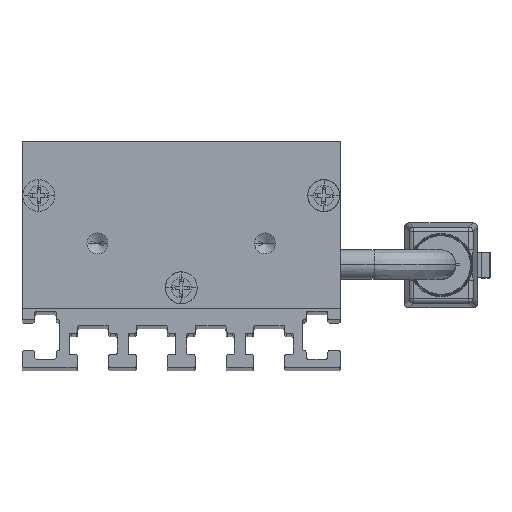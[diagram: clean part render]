
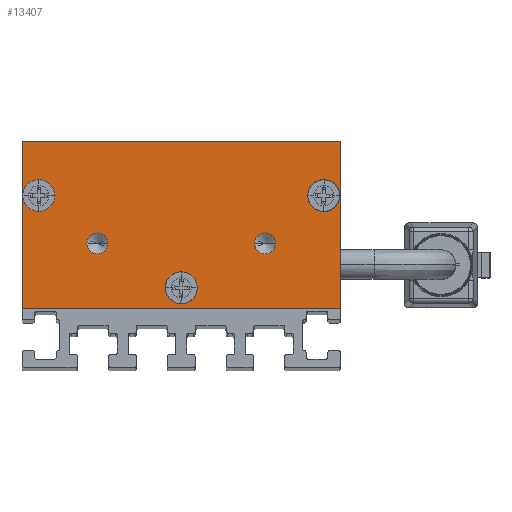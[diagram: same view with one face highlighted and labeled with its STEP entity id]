
A CAD part, top view. The second image highlights one B-rep face of the part: STEP entity #13407.
In plain terms, the highlighted planar face has unit normal (0, 0, 1) as drawn and (0, 0, -1) by its records, which use the part's own axes.
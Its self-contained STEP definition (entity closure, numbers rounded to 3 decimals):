
#22 = CIRCLE ( 'NONE', #2148, 1.9 ) ;
#53 = VERTEX_POINT ( 'NONE', #8058 ) ;
#209 = DIRECTION ( 'NONE',  ( -1., 0., 0. ) ) ;
#290 = CARTESIAN_POINT ( 'NONE',  ( 11.25, 7.8, -2.5 ) ) ;
#395 = LINE ( 'NONE', #14162, #1945 ) ;
#421 = DIRECTION ( 'NONE',  ( -1., 0., 0. ) ) ;
#468 = CARTESIAN_POINT ( 'NONE',  ( -19., 20., -2.5 ) ) ;
#610 = VECTOR ( 'NONE', #632, 1000. ) ;
#623 = VERTEX_POINT ( 'NONE', #5720 ) ;
#632 = DIRECTION ( 'NONE',  ( -1., 0., 0. ) ) ;
#649 = VERTEX_POINT ( 'NONE', #6039 ) ;
#1149 = EDGE_CURVE ( 'NONE', #623, #8627, #3284, .T. ) ;
#1183 = VERTEX_POINT ( 'NONE', #7995 ) ;
#1252 = EDGE_CURVE ( 'NONE', #9167, #14194, #3558, .T. ) ;
#1466 = VERTEX_POINT ( 'NONE', #12126 ) ;
#1819 = DIRECTION ( 'NONE',  ( 0., 1., 0. ) ) ;
#1912 = CIRCLE ( 'NONE', #7988, 1.9 ) ;
#1945 = VECTOR ( 'NONE', #2737, 1000. ) ;
#2122 = CARTESIAN_POINT ( 'NONE',  ( -19., 20., -2.5 ) ) ;
#2148 = AXIS2_PLACEMENT_3D ( 'NONE', #5836, #10875, #4664 ) ;
#2205 = CIRCLE ( 'NONE', #14374, 1.25 ) ;
#2245 = DIRECTION ( 'NONE',  ( 0., 0., -1. ) ) ;
#2492 = EDGE_CURVE ( 'NONE', #649, #15134, #13073, .T. ) ;
#2737 = DIRECTION ( 'NONE',  ( 1., 0., 0. ) ) ;
#2931 = FACE_BOUND ( 'NONE', #9107, .T. ) ;
#3009 = DIRECTION ( 'NONE',  ( 1., 0., 0. ) ) ;
#3284 = CIRCLE ( 'NONE', #12546, 1.25 ) ;
#3289 = CARTESIAN_POINT ( 'NONE',  ( -19., 20., -2.5 ) ) ;
#3347 = EDGE_LOOP ( 'NONE', ( #14887, #16400 ) ) ;
#3360 = ORIENTED_EDGE ( 'NONE', *, *, #1149, .F. ) ;
#3435 = ORIENTED_EDGE ( 'NONE', *, *, #16070, .F. ) ;
#3492 = CARTESIAN_POINT ( 'NONE',  ( -15.1, 13.5, -2.5 ) ) ;
#3558 = CIRCLE ( 'NONE', #3827, 1.9 ) ;
#3601 = CARTESIAN_POINT ( 'NONE',  ( -19., 0., -2.5 ) ) ;
#3667 = DIRECTION ( 'NONE',  ( 0., 0., -1. ) ) ;
#3827 = AXIS2_PLACEMENT_3D ( 'NONE', #5448, #11811, #9311 ) ;
#3873 = DIRECTION ( 'NONE',  ( 0., 0., -1. ) ) ;
#3993 = FACE_BOUND ( 'NONE', #14245, .T. ) ;
#3994 = ORIENTED_EDGE ( 'NONE', *, *, #14336, .F. ) ;
#4039 = DIRECTION ( 'NONE',  ( 0., 0., -1. ) ) ;
#4116 = DIRECTION ( 'NONE',  ( 0., 0., -1. ) ) ;
#4207 = DIRECTION ( 'NONE',  ( 0., -1., 0. ) ) ;
#4294 = CIRCLE ( 'NONE', #6401, 1.25 ) ;
#4557 = CARTESIAN_POINT ( 'NONE',  ( 10., 7.8, -2.5 ) ) ;
#4664 = DIRECTION ( 'NONE',  ( -1., 0., 0. ) ) ;
#4761 = EDGE_LOOP ( 'NONE', ( #12430, #16180, #11133, #15437 ) ) ;
#5109 = CIRCLE ( 'NONE', #11450, 1.25 ) ;
#5344 = VERTEX_POINT ( 'NONE', #290 ) ;
#5373 = DIRECTION ( 'NONE',  ( -1., 0., 0. ) ) ;
#5448 = CARTESIAN_POINT ( 'NONE',  ( 17., 13.5, -2.5 ) ) ;
#5539 = LINE ( 'NONE', #468, #9725 ) ;
#5720 = CARTESIAN_POINT ( 'NONE',  ( -8.75, 7.8, -2.5 ) ) ;
#5836 = CARTESIAN_POINT ( 'NONE',  ( -17., 13.5, -2.5 ) ) ;
#5904 = AXIS2_PLACEMENT_3D ( 'NONE', #11405, #3873, #8922 ) ;
#6039 = CARTESIAN_POINT ( 'NONE',  ( 19., 20., -2.5 ) ) ;
#6130 = AXIS2_PLACEMENT_3D ( 'NONE', #6569, #12778, #3009 ) ;
#6401 = AXIS2_PLACEMENT_3D ( 'NONE', #4557, #2245, #12259 ) ;
#6410 = EDGE_CURVE ( 'NONE', #5344, #1183, #4294, .T. ) ;
#6454 = CARTESIAN_POINT ( 'NONE',  ( 19., 0., -2.5 ) ) ;
#6544 = CIRCLE ( 'NONE', #11564, 1.9 ) ;
#6562 = LINE ( 'NONE', #13172, #14376 ) ;
#6569 = CARTESIAN_POINT ( 'NONE',  ( 0., 0., -2.5 ) ) ;
#6647 = FACE_OUTER_BOUND ( 'NONE', #4761, .T. ) ;
#6918 = ORIENTED_EDGE ( 'NONE', *, *, #6410, .F. ) ;
#6919 = EDGE_CURVE ( 'NONE', #1466, #53, #10132, .T. ) ;
#6935 = EDGE_CURVE ( 'NONE', #14194, #9167, #6544, .T. ) ;
#7094 = ORIENTED_EDGE ( 'NONE', *, *, #6919, .F. ) ;
#7419 = CARTESIAN_POINT ( 'NONE',  ( 18.9, 13.5, -2.5 ) ) ;
#7627 = EDGE_CURVE ( 'NONE', #15134, #13739, #5539, .T. ) ;
#7639 = CARTESIAN_POINT ( 'NONE',  ( -10., 7.8, -2.5 ) ) ;
#7671 = AXIS2_PLACEMENT_3D ( 'NONE', #11554, #11380, #7826 ) ;
#7712 = PLANE ( 'NONE',  #6130 ) ;
#7826 = DIRECTION ( 'NONE',  ( -1., 0., 0. ) ) ;
#7988 = AXIS2_PLACEMENT_3D ( 'NONE', #15441, #9212, #421 ) ;
#7995 = CARTESIAN_POINT ( 'NONE',  ( 8.75, 7.8, -2.5 ) ) ;
#8058 = CARTESIAN_POINT ( 'NONE',  ( -1.9, 2.5, -2.5 ) ) ;
#8360 = VERTEX_POINT ( 'NONE', #9791 ) ;
#8368 = CARTESIAN_POINT ( 'NONE',  ( 15.1, 13.5, -2.5 ) ) ;
#8627 = VERTEX_POINT ( 'NONE', #11872 ) ;
#8922 = DIRECTION ( 'NONE',  ( -1., 0., 0. ) ) ;
#9107 = EDGE_LOOP ( 'NONE', ( #12999, #13124 ) ) ;
#9167 = VERTEX_POINT ( 'NONE', #8368 ) ;
#9212 = DIRECTION ( 'NONE',  ( 0., 0., -1. ) ) ;
#9311 = DIRECTION ( 'NONE',  ( -1., 0., 0. ) ) ;
#9725 = VECTOR ( 'NONE', #4207, 1000. ) ;
#9747 = EDGE_CURVE ( 'NONE', #9993, #8360, #11642, .T. ) ;
#9791 = CARTESIAN_POINT ( 'NONE',  ( -18.9, 13.5, -2.5 ) ) ;
#9964 = FACE_BOUND ( 'NONE', #3347, .T. ) ;
#9993 = VERTEX_POINT ( 'NONE', #3492 ) ;
#10132 = CIRCLE ( 'NONE', #5904, 1.9 ) ;
#10242 = DIRECTION ( 'NONE',  ( 0., 0., -1. ) ) ;
#10875 = DIRECTION ( 'NONE',  ( 0., 0., -1. ) ) ;
#11075 = EDGE_CURVE ( 'NONE', #8360, #9993, #22, .T. ) ;
#11133 = ORIENTED_EDGE ( 'NONE', *, *, #14654, .F. ) ;
#11380 = DIRECTION ( 'NONE',  ( 0., 0., -1. ) ) ;
#11405 = CARTESIAN_POINT ( 'NONE',  ( 0., 2.5, -2.5 ) ) ;
#11441 = VERTEX_POINT ( 'NONE', #6454 ) ;
#11450 = AXIS2_PLACEMENT_3D ( 'NONE', #14298, #4039, #5373 ) ;
#11554 = CARTESIAN_POINT ( 'NONE',  ( -17., 13.5, -2.5 ) ) ;
#11564 = AXIS2_PLACEMENT_3D ( 'NONE', #13973, #10242, #12575 ) ;
#11642 = CIRCLE ( 'NONE', #7671, 1.9 ) ;
#11784 = FACE_BOUND ( 'NONE', #13161, .T. ) ;
#11811 = DIRECTION ( 'NONE',  ( 0., 0., -1. ) ) ;
#11872 = CARTESIAN_POINT ( 'NONE',  ( -11.25, 7.8, -2.5 ) ) ;
#11905 = ORIENTED_EDGE ( 'NONE', *, *, #13423, .F. ) ;
#12126 = CARTESIAN_POINT ( 'NONE',  ( 1.9, 2.5, -2.5 ) ) ;
#12259 = DIRECTION ( 'NONE',  ( -1., 0., 0. ) ) ;
#12430 = ORIENTED_EDGE ( 'NONE', *, *, #7627, .F. ) ;
#12546 = AXIS2_PLACEMENT_3D ( 'NONE', #12727, #4116, #209 ) ;
#12575 = DIRECTION ( 'NONE',  ( -1., 0., 0. ) ) ;
#12727 = CARTESIAN_POINT ( 'NONE',  ( -10., 7.8, -2.5 ) ) ;
#12778 = DIRECTION ( 'NONE',  ( 0., 0., 1. ) ) ;
#12784 = DIRECTION ( 'NONE',  ( -1., 0., 0. ) ) ;
#12999 = ORIENTED_EDGE ( 'NONE', *, *, #1252, .F. ) ;
#13073 = LINE ( 'NONE', #3289, #610 ) ;
#13124 = ORIENTED_EDGE ( 'NONE', *, *, #6935, .F. ) ;
#13161 = EDGE_LOOP ( 'NONE', ( #3994, #6918 ) ) ;
#13172 = CARTESIAN_POINT ( 'NONE',  ( 19., 20., -2.5 ) ) ;
#13407 = ADVANCED_FACE ( 'NONE', ( #2931, #13775, #9964, #11784, #3993, #6647 ), #7712, .F. ) ;
#13423 = EDGE_CURVE ( 'NONE', #53, #1466, #1912, .T. ) ;
#13739 = VERTEX_POINT ( 'NONE', #3601 ) ;
#13775 = FACE_BOUND ( 'NONE', #16049, .T. ) ;
#13973 = CARTESIAN_POINT ( 'NONE',  ( 17., 13.5, -2.5 ) ) ;
#14162 = CARTESIAN_POINT ( 'NONE',  ( -19., 0., -2.5 ) ) ;
#14194 = VERTEX_POINT ( 'NONE', #7419 ) ;
#14245 = EDGE_LOOP ( 'NONE', ( #3435, #3360 ) ) ;
#14298 = CARTESIAN_POINT ( 'NONE',  ( 10., 7.8, -2.5 ) ) ;
#14336 = EDGE_CURVE ( 'NONE', #1183, #5344, #5109, .T. ) ;
#14374 = AXIS2_PLACEMENT_3D ( 'NONE', #7639, #3667, #12784 ) ;
#14376 = VECTOR ( 'NONE', #1819, 1000. ) ;
#14654 = EDGE_CURVE ( 'NONE', #11441, #649, #6562, .T. ) ;
#14887 = ORIENTED_EDGE ( 'NONE', *, *, #11075, .F. ) ;
#14937 = EDGE_CURVE ( 'NONE', #13739, #11441, #395, .T. ) ;
#15134 = VERTEX_POINT ( 'NONE', #2122 ) ;
#15437 = ORIENTED_EDGE ( 'NONE', *, *, #14937, .F. ) ;
#15441 = CARTESIAN_POINT ( 'NONE',  ( 0., 2.5, -2.5 ) ) ;
#16049 = EDGE_LOOP ( 'NONE', ( #11905, #7094 ) ) ;
#16070 = EDGE_CURVE ( 'NONE', #8627, #623, #2205, .T. ) ;
#16180 = ORIENTED_EDGE ( 'NONE', *, *, #2492, .F. ) ;
#16400 = ORIENTED_EDGE ( 'NONE', *, *, #9747, .F. ) ;
